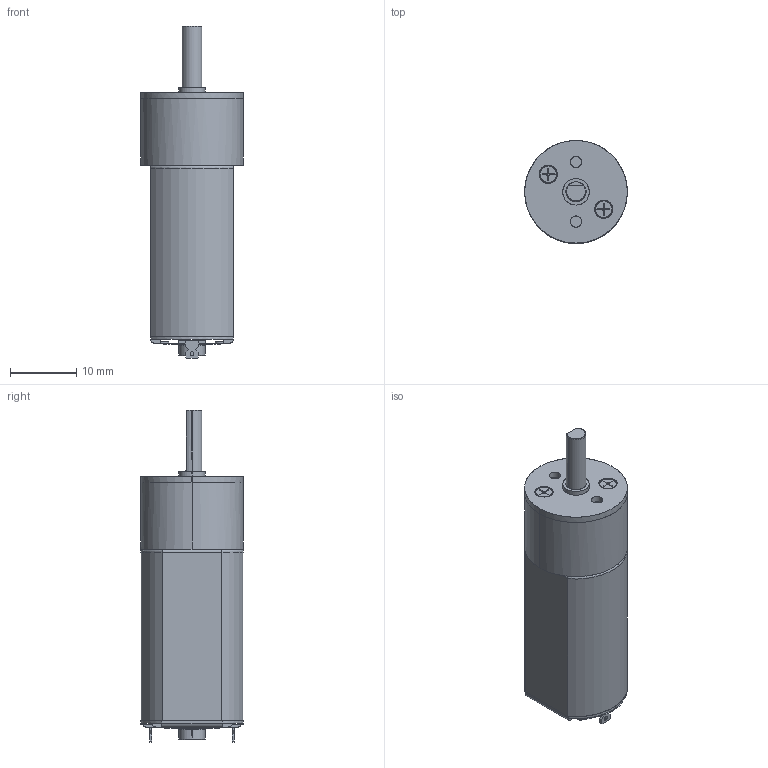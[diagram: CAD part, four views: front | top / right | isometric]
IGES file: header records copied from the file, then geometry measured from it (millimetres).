
Start section: SolidWorks IGES FILE using analytic representation for surfaces
Global section: file name: S:\Projects\Motor Stuff\Solidworks Motor Drawings\GM21\GM21.IGS; native system: SolidWorks 2003 by SolidWorks Corporation; preprocessor: Version 5.3; author: Dave; date: 081107.162109; units: inch
Bounding box: 15.5 x 15.5 x 50.15 mm (x, y, z)
Surface area: 3330.8 mm2 (no closed solid volume)
Topology: 0 solids, 0 shells, 210 faces, 2596 edges, 2584 vertices
Faces by surface type: bspline 127, revolution 83
